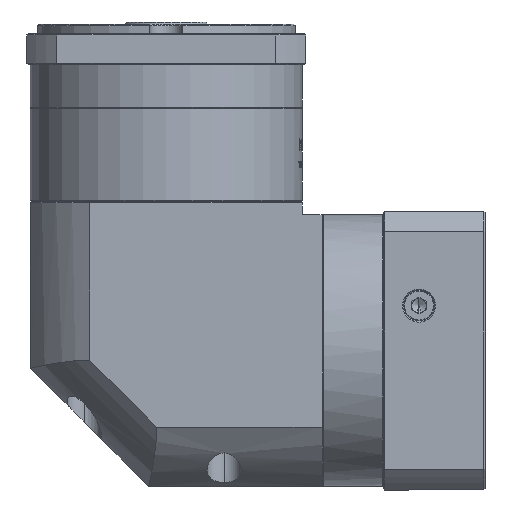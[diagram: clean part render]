
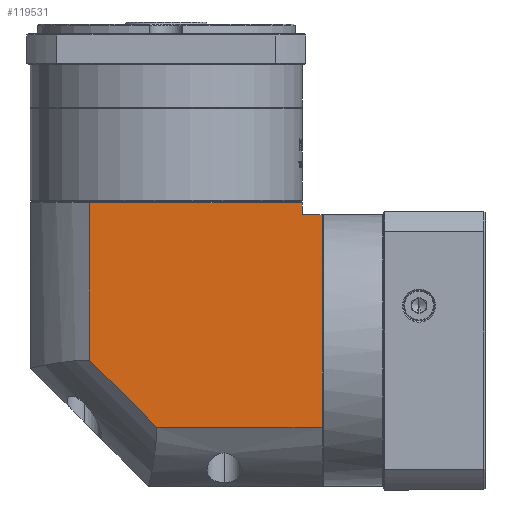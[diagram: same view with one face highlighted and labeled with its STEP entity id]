
A CAD part, left-side view. The second image highlights one B-rep face of the part: STEP entity #119531.
In plain terms, the highlighted planar face has unit normal (-1, 0, 0).
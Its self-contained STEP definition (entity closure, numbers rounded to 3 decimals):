
#1191 = VECTOR ( 'NONE', #62503, 1000. ) ;
#1747 = DIRECTION ( 'NONE',  ( 0., 0., 1. ) ) ;
#4936 = AXIS2_PLACEMENT_3D ( 'NONE', #82907, #32640, #20978 ) ;
#6583 = VERTEX_POINT ( 'NONE', #50828 ) ;
#6624 = DIRECTION ( 'NONE',  ( 0., -1., 0. ) ) ;
#8329 = ORIENTED_EDGE ( 'NONE', *, *, #161882, .F. ) ;
#12928 = ORIENTED_EDGE ( 'NONE', *, *, #42618, .T. ) ;
#18641 = CARTESIAN_POINT ( 'NONE',  ( -280.88, -128.987, 39.039 ) ) ;
#20154 = CARTESIAN_POINT ( 'NONE',  ( -280.88, -137.387, 50.539 ) ) ;
#20978 = DIRECTION ( 'NONE',  ( 0., 1., 0. ) ) ;
#21052 = EDGE_CURVE ( 'NONE', #21795, #6583, #88933, .T. ) ;
#21256 = VERTEX_POINT ( 'NONE', #28285 ) ;
#21262 = LINE ( 'NONE', #42631, #155946 ) ;
#21795 = VERTEX_POINT ( 'NONE', #136435 ) ;
#28285 = CARTESIAN_POINT ( 'NONE',  ( -280.88, -67.425, -50.861 ) ) ;
#30771 = EDGE_CURVE ( 'NONE', #6583, #159877, #73103, .T. ) ;
#32640 = DIRECTION ( 'NONE',  ( 1., 0., 0. ) ) ;
#32893 = DIRECTION ( 'NONE',  ( 0., 0., -1. ) ) ;
#40932 = ORIENTED_EDGE ( 'NONE', *, *, #42118, .F. ) ;
#42118 = EDGE_CURVE ( 'NONE', #141413, #59676, #106232, .T. ) ;
#42618 = EDGE_CURVE ( 'NONE', #44161, #159877, #115926, .T. ) ;
#42631 = CARTESIAN_POINT ( 'NONE',  ( -280.88, -13.987, -50.861 ) ) ;
#44161 = VERTEX_POINT ( 'NONE', #18641 ) ;
#50828 = CARTESIAN_POINT ( 'NONE',  ( -280.88, -39.087, 44.039 ) ) ;
#50993 = CARTESIAN_POINT ( 'NONE',  ( -280.88, -128.987, 44.039 ) ) ;
#55393 = VECTOR ( 'NONE', #6624, 1000. ) ;
#56717 = CARTESIAN_POINT ( 'NONE',  ( -280.88, -137.387, 39.039 ) ) ;
#59676 = VERTEX_POINT ( 'NONE', #98394 ) ;
#60190 = CARTESIAN_POINT ( 'NONE',  ( -280.88, -67.425, -50.861 ) ) ;
#62503 = DIRECTION ( 'NONE',  ( 0., 1., 0. ) ) ;
#63929 = ORIENTED_EDGE ( 'NONE', *, *, #156563, .T. ) ;
#68771 = LINE ( 'NONE', #60190, #136127 ) ;
#69631 = CARTESIAN_POINT ( 'NONE',  ( -280.88, -13.987, 44.039 ) ) ;
#71084 = VECTOR ( 'NONE', #1747, 1000. ) ;
#73103 = LINE ( 'NONE', #69631, #55393 ) ;
#74444 = ORIENTED_EDGE ( 'NONE', *, *, #21052, .F. ) ;
#78575 = DIRECTION ( 'NONE',  ( 0., 1., 0. ) ) ;
#82214 = VECTOR ( 'NONE', #88531, 1000. ) ;
#82907 = CARTESIAN_POINT ( 'NONE',  ( -280.88, -13.987, 50.539 ) ) ;
#84465 = VECTOR ( 'NONE', #32893, 1000. ) ;
#86160 = EDGE_CURVE ( 'NONE', #59676, #21256, #21262, .T. ) ;
#88531 = DIRECTION ( 'NONE',  ( 0., 0., 1. ) ) ;
#88933 = LINE ( 'NONE', #100284, #71084 ) ;
#96361 = EDGE_LOOP ( 'NONE', ( #74444, #8329, #114467, #40932, #63929, #12928, #143953 ) ) ;
#98394 = CARTESIAN_POINT ( 'NONE',  ( -280.88, -137.387, -50.861 ) ) ;
#100284 = CARTESIAN_POINT ( 'NONE',  ( -280.88, -39.087, 50.539 ) ) ;
#102165 = LINE ( 'NONE', #102383, #1191 ) ;
#102383 = CARTESIAN_POINT ( 'NONE',  ( -280.88, -128.987, 39.039 ) ) ;
#106232 = LINE ( 'NONE', #20154, #84465 ) ;
#114467 = ORIENTED_EDGE ( 'NONE', *, *, #86160, .F. ) ;
#115926 = LINE ( 'NONE', #137230, #82214 ) ;
#119531 = ADVANCED_FACE ( 'NONE', ( #159896 ), #159378, .F. ) ;
#136033 = DIRECTION ( 'NONE',  ( 0., 0.707, 0.707 ) ) ;
#136127 = VECTOR ( 'NONE', #136033, 1000. ) ;
#136435 = CARTESIAN_POINT ( 'NONE',  ( -280.88, -39.087, -22.523 ) ) ;
#137230 = CARTESIAN_POINT ( 'NONE',  ( -280.88, -128.987, -75.961 ) ) ;
#141413 = VERTEX_POINT ( 'NONE', #56717 ) ;
#143953 = ORIENTED_EDGE ( 'NONE', *, *, #30771, .F. ) ;
#155946 = VECTOR ( 'NONE', #78575, 1000. ) ;
#156563 = EDGE_CURVE ( 'NONE', #141413, #44161, #102165, .T. ) ;
#159378 = PLANE ( 'NONE',  #4936 ) ;
#159877 = VERTEX_POINT ( 'NONE', #50993 ) ;
#159896 = FACE_OUTER_BOUND ( 'NONE', #96361, .T. ) ;
#161882 = EDGE_CURVE ( 'NONE', #21256, #21795, #68771, .T. ) ;
